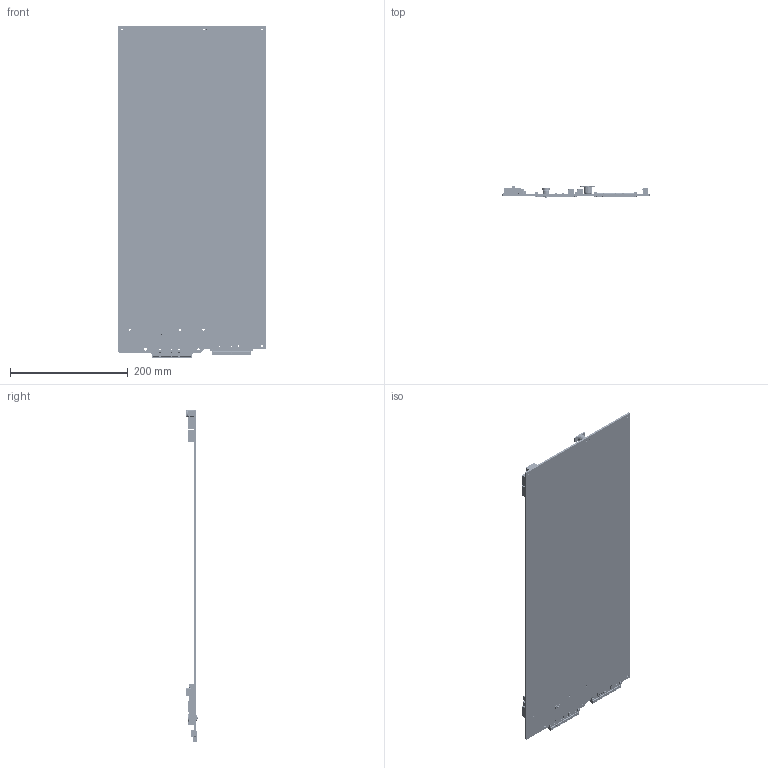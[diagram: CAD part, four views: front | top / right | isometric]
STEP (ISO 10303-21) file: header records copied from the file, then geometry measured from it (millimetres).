
FILE_DESCRIPTION((''),'2;1');
FILE_NAME('M-SDNO-PBA-ASSY-CLASS_B555_ASM','2024-06-03T13:25:31',('mmilobin'),('INTEL'),'CREO PARAMETRIC BY PTC INC, 2023294','CREO PARAMETRIC BY PTC INC, 2023294','');
FILE_SCHEMA(('AUTOMOTIVE_DESIGN { 1 0 10303 214 1 1 1 1 }'));
Products named in the file (27): M-SDNO-CLASS_B555-BOARD; MTG_DM8500N4500_8_AF154; MTG_DM8500N3700_8_AF12; MTG_SLOT_DM10000N4500_8_AF226; MTG_DM8500N3700_8_AF13; MTG_DM8500N3700_8_AF10; MTG_DM8500N3700_8_AF11; SCONN168_M31701001; SCONN84_APH-MCIO-2C-RA2; BOARD-LOCKING-MECHANISM-; BOARD-LOCKING-MECHANISM2; BOARD-LOCKING-MECHANISM3; BOARD-LOCKING-MECHANISM4; BOARD-LOCKING-MECHANISM_ASM; APH_SFF-1033_162P_4CP_VT; CONN-POWER-1158980_1; CONNECTOR-NEARSTACK-X4; CONNECTOR-NEARSTACK-X4_ASM; TK0_SHDR_SPV_2X10_1000_MA_VR; HSM103-CONN; H83816-005-CONN-2X9-SHOUDED; CONN4_E56240001A_ICL; MTG_SPOKE_N137; DC_MHS_HANDLE_DUMMY; MTG_SPOKE_N137_AF14; MTG_SPOKE_N137_AF15; M-SDNO-PBA-ASSY-CLASS_B555_ASM
Assembly tree (34 placements, depth 3):
  M-SDNO-PBA-ASSY-CLASS_B555_ASM
    M-SDNO-CLASS_B555-BOARD
    MTG_DM8500N4500_8_AF154
    MTG_DM8500N3700_8_AF12
    MTG_SLOT_DM10000N4500_8_AF226
    MTG_DM8500N3700_8_AF13
    MTG_DM8500N3700_8_AF10
    MTG_DM8500N3700_8_AF11
    SCONN168_M31701001  x2
    SCONN84_APH-MCIO-2C-RA2
    BOARD-LOCKING-MECHANISM_ASM
      BOARD-LOCKING-MECHANISM-
      BOARD-LOCKING-MECHANISM2
      BOARD-LOCKING-MECHANISM3
      BOARD-LOCKING-MECHANISM4
    APH_SFF-1033_162P_4CP_VT  x3
    CONN-POWER-1158980_1  x5
    CONNECTOR-NEARSTACK-X4_ASM
      CONNECTOR-NEARSTACK-X4
    TK0_SHDR_SPV_2X10_1000_MA_VR  x2
    HSM103-CONN
    H83816-005-CONN-2X9-SHOUDED
    CONN4_E56240001A_ICL
    MTG_SPOKE_N137
    DC_MHS_HANDLE_DUMMY
    MTG_SPOKE_N137_AF14
    MTG_SPOKE_N137_AF15
Bounding box: 250 x 21.56 x 564.52 mm (x, y, z)
Volume: 463029.8 mm3; surface area: 330022.3 mm2
Topology: 145 solids, 151 shells, 41850 faces, 118415 edges, 78620 vertices
Faces by surface type: plane 27222, cylinder 13470, bspline 975, cone 99, torus 68, sphere 16
Entity records: 620966 total; most frequent: CARTESIAN_POINT 127121, ORIENTED_EDGE 98988, DIRECTION 97538, EDGE_CURVE 49506, VECTOR 37430, LINE 37430, VERTEX_POINT 32640, AXIS2_PLACEMENT_3D 30010
